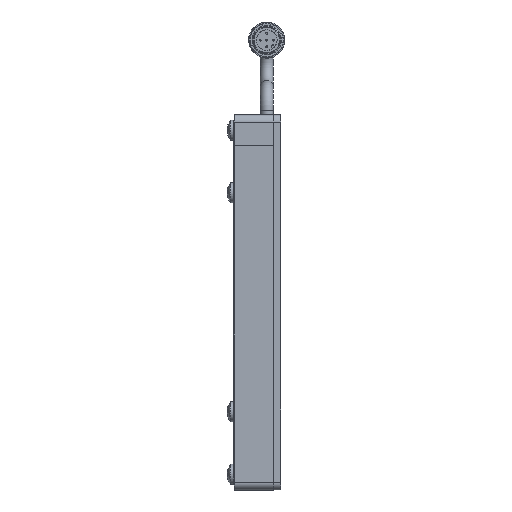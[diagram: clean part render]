
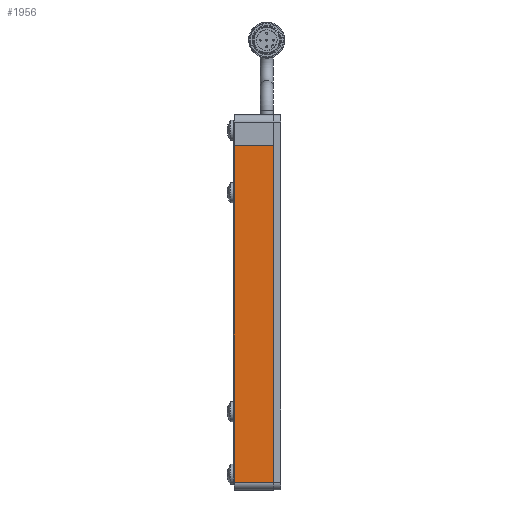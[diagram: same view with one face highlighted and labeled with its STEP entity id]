
A CAD part, left-side view. The second image highlights one B-rep face of the part: STEP entity #1956.
In plain terms, the highlighted planar face has unit normal (-1, 0, 0) as drawn and (0, 0, -1) by its records, which use the part's own axes.
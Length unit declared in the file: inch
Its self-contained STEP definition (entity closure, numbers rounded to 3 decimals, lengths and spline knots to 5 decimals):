
#775 = VERTEX_POINT ( 'NONE', #1194 ) ;
#832 = VERTEX_POINT ( 'NONE', #5744 ) ;
#1194 = CARTESIAN_POINT ( 'NONE',  ( -2.5, -0.3125, -0.25 ) ) ;
#1676 = EDGE_CURVE ( 'NONE', #775, #832, #12089, .T. ) ;
#1956 = ADVANCED_FACE ( 'NONE', ( #14678 ), #3612, .F. ) ;
#2380 = CARTESIAN_POINT ( 'NONE',  ( -3., 0.3125, -0.25 ) ) ;
#2632 = DIRECTION ( 'NONE',  ( -1., 0., 0. ) ) ;
#3612 = PLANE ( 'NONE',  #4852 ) ;
#3716 = EDGE_LOOP ( 'NONE', ( #7471, #7632, #15251, #8704 ) ) ;
#3733 = DIRECTION ( 'NONE',  ( -1., 0., 0. ) ) ;
#4852 = AXIS2_PLACEMENT_3D ( 'NONE', #12074, #9031, #14591 ) ;
#5100 = LINE ( 'NONE', #2380, #15691 ) ;
#5411 = DIRECTION ( 'NONE',  ( 0., -1., 0. ) ) ;
#5683 = EDGE_CURVE ( 'NONE', #7044, #775, #7887, .T. ) ;
#5744 = CARTESIAN_POINT ( 'NONE',  ( -2.5, 0.3125, -0.25 ) ) ;
#6284 = DIRECTION ( 'NONE',  ( 0., 1., 0. ) ) ;
#7044 = VERTEX_POINT ( 'NONE', #10202 ) ;
#7471 = ORIENTED_EDGE ( 'NONE', *, *, #13899, .F. ) ;
#7632 = ORIENTED_EDGE ( 'NONE', *, *, #17349, .T. ) ;
#7800 = CARTESIAN_POINT ( 'NONE',  ( -2.5, -0.3125, -0.25 ) ) ;
#7887 = LINE ( 'NONE', #17686, #17809 ) ;
#8704 = ORIENTED_EDGE ( 'NONE', *, *, #1676, .T. ) ;
#9031 = DIRECTION ( 'NONE',  ( 0., 0., 1. ) ) ;
#9152 = VERTEX_POINT ( 'NONE', #13699 ) ;
#9423 = VECTOR ( 'NONE', #5411, 39.37008 ) ;
#10202 = CARTESIAN_POINT ( 'NONE',  ( 2.875, -0.3125, -0.25 ) ) ;
#12074 = CARTESIAN_POINT ( 'NONE',  ( -3., 0.3125, -0.25 ) ) ;
#12089 = LINE ( 'NONE', #7800, #16174 ) ;
#13680 = CARTESIAN_POINT ( 'NONE',  ( 2.875, 0.3125, -0.25 ) ) ;
#13699 = CARTESIAN_POINT ( 'NONE',  ( 2.875, 0.3125, -0.25 ) ) ;
#13899 = EDGE_CURVE ( 'NONE', #9152, #832, #5100, .T. ) ;
#14591 = DIRECTION ( 'NONE',  ( 1., 0., 0. ) ) ;
#14678 = FACE_OUTER_BOUND ( 'NONE', #3716, .T. ) ;
#15117 = LINE ( 'NONE', #13680, #9423 ) ;
#15251 = ORIENTED_EDGE ( 'NONE', *, *, #5683, .T. ) ;
#15691 = VECTOR ( 'NONE', #3733, 39.37008 ) ;
#16174 = VECTOR ( 'NONE', #6284, 39.37008 ) ;
#17349 = EDGE_CURVE ( 'NONE', #9152, #7044, #15117, .T. ) ;
#17686 = CARTESIAN_POINT ( 'NONE',  ( -3., -0.3125, -0.25 ) ) ;
#17809 = VECTOR ( 'NONE', #2632, 39.37008 ) ;
